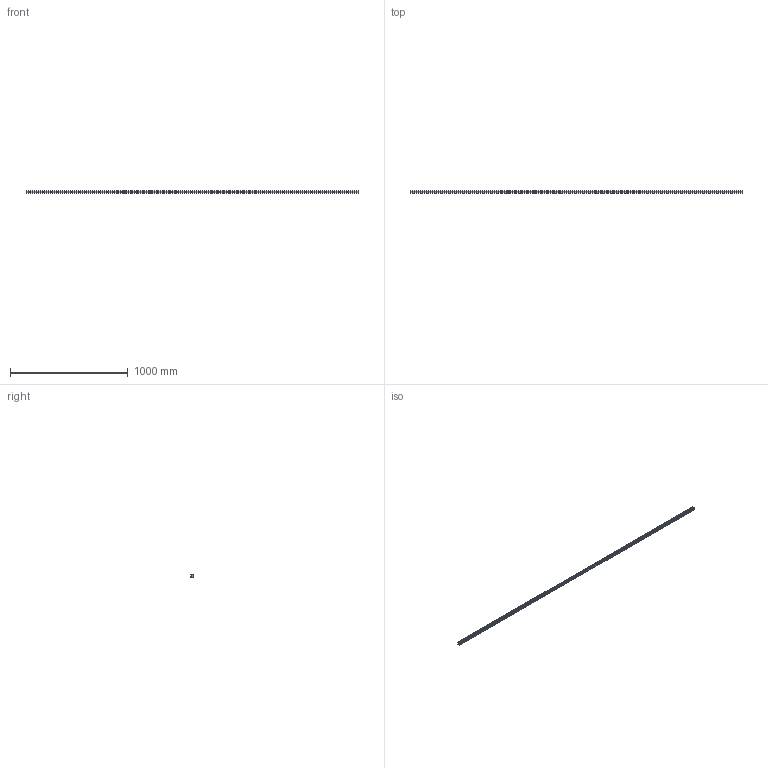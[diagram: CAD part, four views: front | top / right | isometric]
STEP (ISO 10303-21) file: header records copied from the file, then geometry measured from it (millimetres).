
FILE_DESCRIPTION (( 'STEP AP203' ), '1' );
FILE_NAME ('L1018.25R-2820.step', '2023-08-06T10:44:14', ( '' ), ( '' ), 'SwSTEP 2.0', 'SolidWorks 2019', '' );
FILE_SCHEMA (( 'CONFIG_CONTROL_DESIGN' ));
Length unit declared in the file: millimetre
Products named in the file (1): L1018.25R-2820
Bounding box: 2820 x 21.8 x 25 mm (x, y, z)
Volume: 1172804.5 mm3; surface area: 280871.1 mm2
Topology: 1 solids, 1 shells, 452 faces, 1021 edges, 571 vertices
Faces by surface type: cylinder 191, cone 188, plane 73
Entity records: 11996 total; most frequent: DIRECTION 2309, CARTESIAN_POINT 1951, ORIENTED_EDGE 1854, AXIS2_PLACEMENT_3D 929, EDGE_CURVE 927, VERTEX_POINT 571, EDGE_LOOP 546, CIRCLE 476
